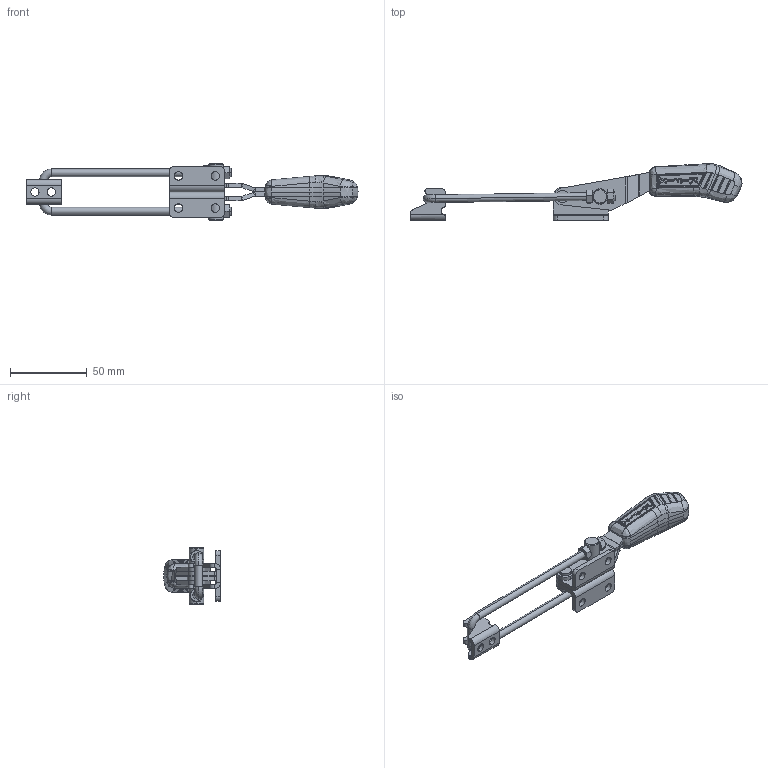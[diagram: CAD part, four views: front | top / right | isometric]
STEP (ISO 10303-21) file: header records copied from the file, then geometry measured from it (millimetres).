
FILE_DESCRIPTION (( 'STEP AP203' ), '1' );
FILE_NAME ('KF-743 DL.STEP', '2014-08-21T16:40:25', ( 'Ricardo' ), ( '' ), 'SwSTEP 2.0', 'SolidWorks 2013', '' );
FILE_SCHEMA (( 'CONFIG_CONTROL_DESIGN' ));
Length unit declared in the file: millimetre
Products named in the file (12): 07.60005; 02.12039_Esquerda; 06.50023; 01.10053_Direita; KF-743 DL; 01.10053_Esquerda; 16.20034; 02.12039_Direita; 03.20067; 15.10026; 11.50005; 11.50013
Assembly tree (13 placements, depth 2):
  KF-743 DL
    02.12039_Direita
    02.12039_Esquerda
    01.10053_Direita
    01.10053_Esquerda
    16.20034
    03.20067
    15.10026
    11.50005  x2
    11.50013  x2
    07.60005
    06.50023
Bounding box: 216.45 x 36.96 x 37 mm (x, y, z)
Volume: 39497.7 mm3; surface area: 27148.9 mm2
Topology: 13 solids, 13 shells, 918 faces, 2324 edges, 1442 vertices
Faces by surface type: bspline 281, cylinder 274, plane 239, cone 66, sphere 50, torus 8
Entity records: 34508 total; most frequent: CARTESIAN_POINT 14927, ORIENTED_EDGE 4412, DIRECTION 3000, EDGE_CURVE 2206, VERTEX_POINT 1375, AXIS2_PLACEMENT_3D 1126, EDGE_LOOP 921, ADVANCED_FACE 869
